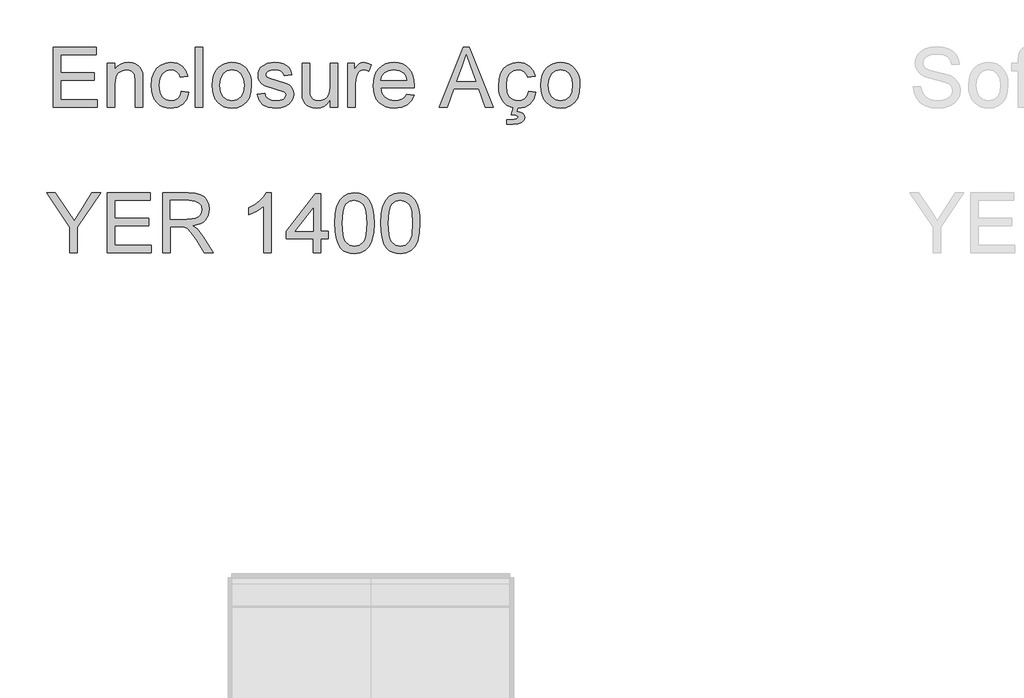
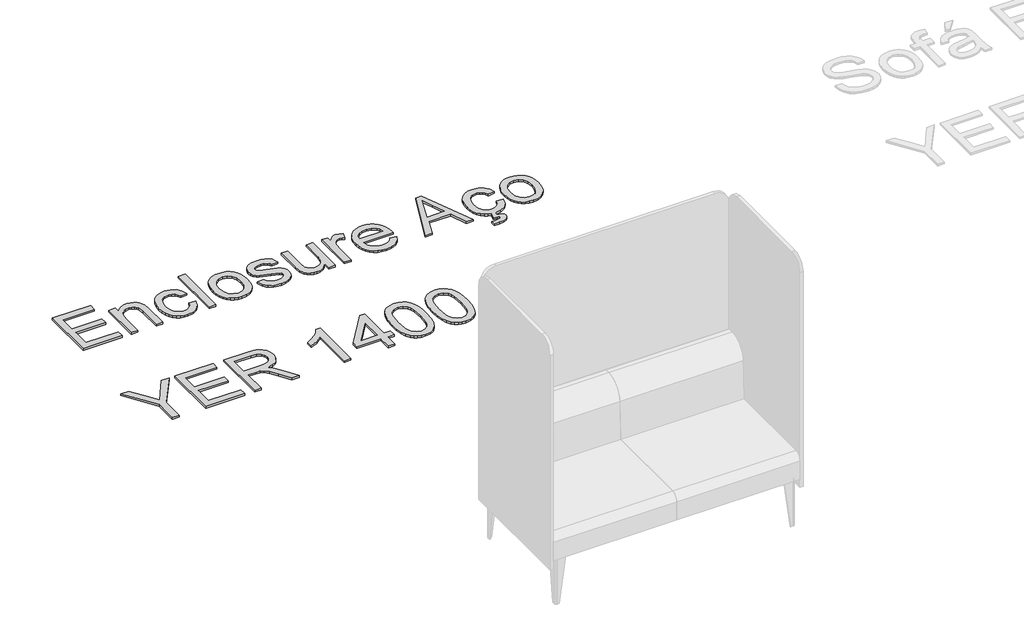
# One storey, part 3 of 26: 1 proxy.
"""IFC4 building model written with IfcOpenShell, lengths in millimetres."""

from ifc_helpers import new_model, si_unit, origin, origin_with_axes, place, context, project, spatial, polyline, outline, extrude, element, save

model = new_model("IFC4")

# Units and contexts
model_context = context("Model", 3, world=origin())
ifc_project = project(units=[si_unit("LENGTHUNIT", "METRE", prefix="MILLI")], contexts=[model_context])

# Site, building, storey
site = spatial("IfcSite", under=ifc_project)
building = spatial("IfcBuilding", under=site)
storey = spatial("IfcBuildingStorey", under=building, Name="Marelli - Linha YOUNG - Planta Baixa", Elevation=0.0)

# Proxy
placement = place(None, origin())
element("IfcBuildingElementProxy", 1, Name="300mm Arial", ObjectType="300mm Arial", at=placement, inside=storey, context=model_context, shape_type="SweptSolid", body=[
    extrude(outline(polyline([(-10696.7547836, -27414.6418665), (-10696.7547836, -27113.2729361), (-10480.1458649, -27113.2729361), (-10480.1458649, -27150.9440524), (-10659.0836673, -27150.9440524), (-10659.0836673, -27240.4129536), (-10489.563644, -27240.4129536), (-10489.563644, -27278.0840699), (-10659.0836673, -27278.0840699), (-10659.0836673, -27376.9707502), (-10475.4369753, -27376.9707502), (-10475.4369753, -27414.6418665), (-10696.7547836, -27414.6418665)])), origin_with_axes(), (0.0, 0.0, 1.0), 10.0),
    extrude(outline(polyline([(-10423.6391904, -27414.6418665), (-10423.6391904, -27193.3240582), (-10385.9680741, -27193.3240582), (-10385.9680741, -27224.2261458), (-10372.8806721, -27208.6463433), (-10357.1629139, -27197.517913), (-10338.8147994, -27190.8408548), (-10317.8363286, -27188.6151687), (-10299.2674849, -27190.4085934), (-10282.2621397, -27195.7888676), (-10268.0802888, -27204.0846066), (-10257.981928, -27214.6244258), (-10246.6879507, -27242.32594), (-10244.701388, -27278.7462575), (-10244.701388, -27414.6418665), (-10282.3725043, -27414.6418665), (-10282.3725043, -27283.823029), (-10286.7135118, -27250.4929203), (-10292.7191854, -27240.5693035), (-10302.054191, -27232.8713727), (-10314.0195529, -27227.9325569), (-10327.9162953, -27226.286285), (-10349.9800179, -27229.9834991), (-10368.7879849, -27241.0751412), (-10376.304274, -27250.1296368), (-10381.6730518, -27262.5042674), (-10385.9680741, -27297.2139337), (-10385.9680741, -27414.6418665), (-10423.6391904, -27414.6418665)])), origin_with_axes(), (0.0, 0.0, 1.0), 10.0),
    extrude(outline(polyline([(-10051.6369169, -27334.5907444), (-10013.9658006, -27339.2996339), (-10024.4688316, -27372.8044866), (-10044.2057006, -27398.1239649), (-10071.3186036, -27414.0440583), (-10103.9497366, -27419.3507561), (-10125.0776595, -27417.4998498), (-10144.0212829, -27411.9471309), (-10160.7806071, -27402.6925995), (-10175.3556319, -27389.7362555), (-10187.1531476, -27373.3218207), (-10195.5799446, -27353.693017), (-10200.6360227, -27330.8498443), (-10202.3213821, -27304.7923028), (-10199.4427055, -27271.269056), (-10190.8066757, -27242.2155754), (-10176.2753369, -27218.7539012), (-10155.7107333, -27202.0060733), (-10131.1086249, -27191.9628949), (-10104.4647714, -27188.6151687), (-10072.6337818, -27193.2136936), (-10047.1855448, -27207.0092685), (-10028.9294007, -27229.2661292), (-10018.6746901, -27259.2485118), (-10056.3458064, -27263.9574013), (-10063.1792145, -27247.5222732), (-10073.8202012, -27235.7408523), (-10087.6801554, -27228.6499268), (-10104.1704658, -27226.286285), (-10128.5150568, -27230.9399922), (-10147.8380586, -27244.901114), (-10160.447214, -27268.9238082), (-10164.6502658, -27303.7622332), (-10160.5391845, -27339.0697077), (-10148.2059406, -27363.1751754), (-10129.2324267, -27377.0535237), (-10105.2005354, -27381.6796398), (-10085.6935926, -27378.7917661), (-10069.6999229, -27370.1281451), (-10058.0656548, -27355.4680476), (-10051.6369169, -27334.5907444)])), origin_with_axes(), (0.0, 0.0, 1.0), 10.0),
    extrude(outline(polyline([(-9981.0035738, -27414.6418665), (-9981.0035738, -27113.2729361), (-9943.3324575, -27113.2729361), (-9943.3324575, -27414.6418665), (-9981.0035738, -27414.6418665)])), origin_with_axes(), (0.0, 0.0, 1.0), 10.0),
    extrude(outline(polyline([(-9896.2435621, -27303.9829624), (-9894.2064156, -27275.3203564), (-9888.0949759, -27250.621679), (-9877.9092432, -27229.88693), (-9863.6492174, -27213.1161096), (-9849.2926225, -27202.3969479), (-9833.4461056, -27194.7404039), (-9816.1096665, -27190.1464775), (-9797.2833054, -27188.6151687), (-9776.500272, -27190.4798706), (-9757.7083998, -27196.0739761), (-9740.9076889, -27205.3974855), (-9726.0981394, -27218.4503985), (-9714.0109166, -27234.7912569), (-9705.377186, -27253.9786022), (-9700.1969476, -27276.0124344), (-9698.4702015, -27300.8927536), (-9701.5236221, -27338.950146), (-9710.6838838, -27367.9208531), (-9725.6842721, -27389.6166938), (-9746.2580727, -27405.8494868), (-9770.6946342, -27415.9754388), (-9797.2833054, -27419.3507561), (-9818.3698415, -27417.492952), (-9837.3364577, -27411.9195398), (-9854.1831538, -27402.6305194), (-9868.9099299, -27389.6258909), (-9880.868394, -27373.1263834), (-9889.4101541, -27353.3527261), (-9894.5352101, -27330.3049191), (-9896.2435621, -27303.9829624)]), holes=[polyline([(-9858.5724458, -27303.909386), (-9854.2130442, -27338.0028499), (-9841.1348393, -27362.2922586), (-9821.4531525, -27376.8327945), (-9797.2833054, -27381.6796398), (-9773.223823, -27376.8052033), (-9753.5789244, -27362.181894), (-9740.5007195, -27337.5705885), (-9736.1413178, -27302.7321636), (-9740.5283106, -27269.6319811), (-9753.689289, -27245.6736661), (-9773.3617787, -27231.1331303), (-9797.2833054, -27226.286285), (-9821.4531525, -27231.1147362), (-9841.1348393, -27245.6000897), (-9854.2130442, -27269.8343162), (-9858.5724458, -27303.909386)])]), origin_with_axes(), (0.0, 0.0, 1.0), 10.0),
    extrude(outline(polyline([(-9670.2168643, -27348.717413), (-9632.545748, -27344.0085235), (-9626.6044538, -27360.1217548), (-9615.1081414, -27371.9675551), (-9597.9832345, -27379.2516186), (-9575.1561567, -27381.6796398), (-9552.6049904, -27379.4539537), (-9536.7492765, -27372.7768955), (-9527.3682856, -27363.101599), (-9524.2412886, -27351.8811982), (-9527.3866797, -27342.2794781), (-9536.8228529, -27334.9586264), (-9575.5976151, -27324.2164721), (-9632.3250188, -27305.7855842), (-9646.6816137, -27296.5241549), (-9657.0834771, -27284.2644874), (-9663.4018503, -27269.7883309), (-9665.5079748, -27253.8774346), (-9663.8157176, -27239.2817165), (-9658.7389461, -27225.8080384), (-9650.7375127, -27213.9898293), (-9640.2712699, -27204.3605181), (-9616.322152, -27193.2136936), (-9583.9117482, -27188.6151687), (-9559.3924133, -27190.4637757), (-9538.0736516, -27196.0095968), (-9520.9303507, -27204.710006), (-9508.9373976, -27216.0223773), (-9500.9911465, -27230.7836424), (-9495.9879514, -27249.8307327), (-9533.6590677, -27254.5396222), (-9538.4139425, -27242.6846249), (-9547.8225245, -27233.7542895), (-9561.9767843, -27228.1532861), (-9580.9686923, -27226.286285), (-9602.6001536, -27228.0705127), (-9617.0211278, -27233.4231957), (-9625.1329258, -27241.1487176), (-9627.8368585, -27250.0514619), (-9623.3486981, -27261.0143453), (-9609.2956059, -27269.3284784), (-9576.8484139, -27277.3483059), (-9521.5557501, -27295.0802181), (-9506.9508348, -27303.5598981), (-9495.8775868, -27315.166575), (-9488.8970259, -27329.9370371), (-9486.5701723, -27347.9080726), (-9489.3016961, -27366.4861134), (-9497.4962676, -27383.9605081), (-9510.8411869, -27398.9608965), (-9529.0237546, -27410.116918), (-9550.9863097, -27417.0422966), (-9575.6711915, -27419.3507561), (-9613.6550075, -27414.8993839), (-9641.3749159, -27401.5452675), (-9659.8793802, -27379.4355596), (-9670.2168643, -27348.717413)])), origin_with_axes(), (0.0, 0.0, 1.0), 10.0),
    extrude(outline(polyline([(-9302.9234803, -27414.6418665), (-9302.9234803, -27376.6028682), (-9316.5535082, -27395.3050692), (-9332.4276163, -27408.6637841), (-9350.5458046, -27416.6790131), (-9370.908073, -27419.3507561), (-9389.2561875, -27417.4745579), (-9406.3351092, -27411.8459634), (-9420.6641129, -27403.3846775), (-9430.7624736, -27393.0104052), (-9441.9828745, -27365.2721028), (-9444.1901665, -27330.2497368), (-9444.1901665, -27193.3240582), (-9406.5190502, -27193.3240582), (-9406.5190502, -27312.5178247), (-9404.2381818, -27350.924705), (-9398.747543, -27363.7361954), (-9389.338961, -27373.4758713), (-9376.6378351, -27379.6286976), (-9361.2695648, -27381.6796398), (-9345.0183776, -27379.5827124), (-9329.8156542, -27373.2919303), (-9317.2800752, -27363.3867076), (-9309.0303214, -27350.4464584), (-9304.4501906, -27332.7237433), (-9302.9234803, -27308.4711227), (-9302.9234803, -27193.3240582), (-9265.252364, -27193.3240582), (-9265.252364, -27414.6418665), (-9302.9234803, -27414.6418665)])), origin_with_axes(), (0.0, 0.0, 1.0), 10.0),
    extrude(outline(polyline([(-9213.4545791, -27414.6418665), (-9213.4545791, -27193.3240582), (-9180.4923523, -27193.3240582), (-9180.4923523, -27226.0655558), (-9168.3154583, -27207.0828449), (-9157.0950574, -27195.8992322), (-9145.8378684, -27190.4361846), (-9133.5506097, -27188.6151687), (-9114.788628, -27191.5214365), (-9095.7323406, -27200.2402397), (-9108.3139049, -27234.0118069), (-9121.5576567, -27228.2176655), (-9134.8014085, -27226.286285), (-9146.0494005, -27228.1440891), (-9156.101776, -27233.7175013), (-9164.2227711, -27242.5834574), (-9169.6766217, -27254.318893), (-9174.2567525, -27275.3617432), (-9175.7834628, -27298.3175797), (-9175.7834628, -27414.6418665), (-9213.4545791, -27414.6418665)])), origin_with_axes(), (0.0, 0.0, 1.0), 10.0),
    extrude(outline(polyline([(-8917.2359966, -27348.717413), (-8880.3006443, -27353.4263025), (-8893.6087754, -27381.2565755), (-8914.8447636, -27402.0603023), (-8943.5303622, -27415.0281426), (-8979.1873246, -27419.3507561), (-9002.5616268, -27417.4860542), (-9023.3883463, -27411.8919486), (-9041.6674829, -27402.5684393), (-9057.3990367, -27389.5155263), (-9070.0495788, -27373.096493), (-9079.0856804, -27353.6746229), (-9084.5073413, -27331.249916), (-9086.3145616, -27305.8223724), (-9084.4889472, -27279.5326053), (-9079.012104, -27256.3606381), (-9069.8840319, -27236.3064708), (-9057.1047311, -27219.3701035), (-9041.414564, -27205.9148195), (-9023.5538932, -27196.3039024), (-9003.5227185, -27190.5373521), (-8981.3210401, -27188.6151687), (-8959.8344324, -27190.5327536), (-8940.4033652, -27196.2855083), (-8923.0278387, -27205.8734328), (-8907.7078529, -27219.2965271), (-8895.2021643, -27236.1961062), (-8886.2695296, -27256.2134853), (-8880.9099488, -27279.3486643), (-8879.1234219, -27305.6016432), (-8879.3441511, -27315.7551862), (-9048.6434453, -27315.7551862), (-9042.1227369, -27343.9533412), (-9026.9751957, -27364.6834916), (-9005.1138082, -27377.4306027), (-8978.4515606, -27381.6796398), (-8958.4019918, -27379.7114711), (-8941.5162083, -27373.8069651), (-8927.7942098, -27363.5982397), (-8917.2359966, -27348.717413)]), holes=[polyline([(-9048.6434453, -27278.0840699), (-8916.7945382, -27278.0840699), (-8921.8897038, -27258.181654), (-8931.8777, -27243.9446208), (-8953.8402551, -27230.7008689), (-8981.4681929, -27226.286285), (-9006.8612476, -27229.8087551), (-9027.8581125, -27240.3761654), (-9042.4538307, -27256.8480818), (-9048.6434453, -27278.0840699)])]), origin_with_axes(), (0.0, 0.0, 1.0), 10.0),
    extrude(outline(polyline([(-8754.1171199, -27414.6418665), (-8633.8197075, -27113.2729361), (-8601.7403975, -27113.2729361), (-8481.4429851, -27414.6418665), (-8521.247817, -27414.6418665), (-8555.7551481, -27320.4640758), (-8679.8785333, -27320.4640758), (-8714.312288, -27414.6418665), (-8754.1171199, -27414.6418665)]), holes=[polyline([(-8666.0461703, -27282.7929595), (-8569.5139347, -27282.7929595), (-8596.663626, -27208.7015256), (-8617.7800525, -27150.9440524), (-8636.5420343, -27202.2268025), (-8666.0461703, -27282.7929595)])]), origin_with_axes(), (0.0, 0.0, 1.0), 10.0),
    extrude(outline(polyline([(-8304.6388982, -27334.5907444), (-8266.9677819, -27339.2996339), (-8277.4708129, -27372.8044866), (-8297.2076819, -27398.1239649), (-8324.3205849, -27414.0440583), (-8357.965626, -27419.2619329), (-8363.2057118, -27435.0961055), (-8346.2371548, -27438.5541962), (-8333.738364, -27445.1024957), (-8326.0404333, -27453.6557521), (-8323.4744564, -27463.1287135), (-8327.1900645, -27476.6299827), (-8338.336889, -27488.4389948), (-8356.9885061, -27496.6611574), (-8383.2184924, -27499.4018782), (-8412.9433576, -27499.4018782), (-8412.9433576, -27475.8574305), (-8392.1212367, -27475.8574305), (-8362.8378298, -27471.516423), (-8356.4366831, -27463.4230191), (-8359.0118571, -27458.0887302), (-8368.5400008, -27454.1156046), (-8390.5761323, -27452.3129828), (-8380.5789009, -27416.7672714), (-8397.0232642, -27411.9471309), (-8413.7825884, -27402.6925995), (-8428.3576132, -27389.7362555), (-8440.1551289, -27373.3218207), (-8448.5819259, -27353.693017), (-8453.638004, -27330.8498443), (-8455.3233634, -27304.7923028), (-8452.4446868, -27271.269056), (-8443.808657, -27242.2155754), (-8429.2773182, -27218.7539012), (-8408.7127146, -27202.0060733), (-8384.1106062, -27191.9628949), (-8357.4667527, -27188.6151687), (-8325.6357631, -27193.2136936), (-8300.1875261, -27207.0092685), (-8281.9313821, -27229.2661292), (-8271.6766714, -27259.2485118), (-8309.3477877, -27263.9574013), (-8316.1811958, -27247.5222732), (-8326.8221825, -27235.7408523), (-8340.6821367, -27228.6499268), (-8357.1724471, -27226.286285), (-8381.5170381, -27230.9399922), (-8400.8400399, -27244.901114), (-8413.4491953, -27268.9238082), (-8417.6522471, -27303.7622332), (-8413.5411658, -27339.0697077), (-8401.2079219, -27363.1751754), (-8382.234408, -27377.0535237), (-8358.2025167, -27381.6796398), (-8338.6955739, -27378.7917661), (-8322.7019042, -27370.1281451), (-8311.0676361, -27355.4680476), (-8304.6388982, -27334.5907444)])), origin_with_axes(), (0.0, 0.0, 1.0), 10.0),
    extrude(outline(polyline([(-8243.4233342, -27303.9829624), (-8241.3861877, -27275.3203564), (-8235.274748, -27250.621679), (-8225.0890153, -27229.88693), (-8210.8289894, -27213.1161096), (-8196.4723946, -27202.3969479), (-8180.6258776, -27194.7404039), (-8163.2894386, -27190.1464775), (-8144.4630775, -27188.6151687), (-8123.680044, -27190.4798706), (-8104.8881719, -27196.0739761), (-8088.087461, -27205.3974855), (-8073.2779114, -27218.4503985), (-8061.1906886, -27234.7912569), (-8052.5569581, -27253.9786022), (-8047.3767197, -27276.0124344), (-8045.6499736, -27300.8927536), (-8048.7033942, -27338.950146), (-8057.8636558, -27367.9208531), (-8072.8640442, -27389.6166938), (-8093.4378448, -27405.8494868), (-8117.8744063, -27415.9754388), (-8144.4630775, -27419.3507561), (-8165.5496136, -27417.492952), (-8184.5162297, -27411.9195398), (-8201.3629258, -27402.6305194), (-8216.089702, -27389.6258909), (-8228.0481661, -27373.1263834), (-8236.5899261, -27353.3527261), (-8241.7149822, -27330.3049191), (-8243.4233342, -27303.9829624)]), holes=[polyline([(-8205.7522179, -27303.909386), (-8201.3928163, -27338.0028499), (-8188.3146113, -27362.2922586), (-8168.6329246, -27376.8327945), (-8144.4630775, -27381.6796398), (-8120.403595, -27376.8052033), (-8100.7586965, -27362.181894), (-8087.6804916, -27337.5705885), (-8083.3210899, -27302.7321636), (-8087.7080827, -27269.6319811), (-8100.8690611, -27245.6736661), (-8120.5415508, -27231.1331303), (-8144.4630775, -27226.286285), (-8168.6329246, -27231.1147362), (-8188.3146113, -27245.6000897), (-8201.3928163, -27269.8343162), (-8205.7522179, -27303.909386)])]), origin_with_axes(), (0.0, 0.0, 1.0), 10.0),
    extrude(outline(polyline([(-10611.994772, -28146.4907736), (-10611.994772, -28018.8357213), (-10729.7170104, -27845.1218432), (-10685.2768654, -27845.1218432), (-10622.4426206, -27937.9016823), (-10590.2897342, -27985.2113069), (-10558.0632715, -27934.517168), (-10501.0415622, -27845.1218432), (-10456.6014172, -27845.1218432), (-10574.3236556, -28018.8357213), (-10574.3236556, -28146.4907736), (-10611.994772, -28146.4907736)])), origin_with_axes(), (0.0, 0.0, 1.0), 10.0),
    extrude(outline(polyline([(-10423.6391904, -28146.4907736), (-10423.6391904, -27845.1218432), (-10207.0302717, -27845.1218432), (-10207.0302717, -27882.7929595), (-10385.9680741, -27882.7929595), (-10385.9680741, -27972.2618607), (-10216.4480507, -27972.2618607), (-10216.4480507, -28009.932977), (-10385.9680741, -28009.932977), (-10385.9680741, -28108.8196573), (-10202.3213821, -28108.8196573), (-10202.3213821, -28146.4907736), (-10423.6391904, -28146.4907736)])), origin_with_axes(), (0.0, 0.0, 1.0), 10.0),
    extrude(outline(polyline([(-10145.8147077, -28146.4907736), (-10145.8147077, -27845.1218432), (-10015.9523634, -27845.1218432), (-9981.0495591, -27847.1543912), (-9955.6565044, -27853.2520352), (-9937.0968577, -27864.5092243), (-9922.6942776, -27882.0204073), (-9913.4512425, -27903.734642), (-9910.3702308, -27927.6009865), (-9915.4745934, -27957.2890635), (-9930.7876815, -27981.900369), (-9942.3874606, -27991.9297519), (-9956.7693474, -27999.9449808), (-9993.8794437, -28009.932977), (-9972.4687115, -28026.0462084), (-9941.9345059, -28064.8209707), (-9891.6818254, -28146.4907736), (-9935.4597828, -28146.4907736), (-9974.6760035, -28084.0244108), (-10003.0029171, -28042.6744746), (-10022.9053331, -28023.1399406), (-10040.8211862, -28015.9662417), (-10062.6733768, -28014.6418665), (-10108.1435914, -28014.6418665), (-10108.1435914, -28146.4907736), (-10145.8147077, -28146.4907736)]), holes=[polyline([(-10108.1435914, -27976.9707502), (-10023.8250381, -27976.9707502), (-9999.6092057, -27975.637178), (-9980.8196328, -27971.6364613), (-9966.6745701, -27964.7018857), (-9956.3922683, -27954.5667367), (-9950.1290774, -27942.3070692), (-9948.0413471, -27928.9989381), (-9952.0236697, -27910.6232324), (-9963.9706375, -27895.8159821), (-9984.5260439, -27886.0487151), (-10014.3336826, -27882.7929595), (-10108.1435914, -27882.7929595), (-10108.1435914, -27976.9707502)])]), origin_with_axes(), (0.0, 0.0, 1.0), 10.0),
    extrude(outline(polyline([(-9599.5835212, -28146.4907736), (-9637.2546375, -28146.4907736), (-9637.2546375, -27911.6349079), (-9672.9391911, -27937.0555537), (-9712.5968701, -27956.0750529), (-9712.5968701, -27920.4640758), (-9683.0099607, -27904.3692385), (-9657.3777827, -27885.2209806), (-9637.1718641, -27864.8587122), (-9623.8637329, -27845.1218432), (-9599.5835212, -27845.1218432), (-9599.5835212, -28146.4907736)])), origin_with_axes(), (0.0, 0.0, 1.0), 10.0),
    extrude(outline(polyline([(-9387.683492, -28146.4907736), (-9387.683492, -28075.8574305), (-9524.2412886, -28075.8574305), (-9524.2412886, -28038.1863142), (-9378.2657129, -27849.8307327), (-9350.0123757, -27849.8307327), (-9350.0123757, -28038.1863142), (-9312.3412594, -28038.1863142), (-9312.3412594, -28075.8574305), (-9350.0123757, -28075.8574305), (-9350.0123757, -28146.4907736), (-9387.683492, -28146.4907736)]), holes=[polyline([(-9387.683492, -28038.1863142), (-9387.683492, -27921.7884509), (-9477.8881572, -28038.1863142), (-9387.683492, -28038.1863142)])]), origin_with_axes(), (0.0, 0.0, 1.0), 10.0),
    extrude(outline(polyline([(-9279.3790326, -27998.2343295), (-9276.6107206, -27949.9958029), (-9268.3057846, -27911.5245433), (-9254.546998, -27882.2319394), (-9235.4171342, -27861.5293801), (-9210.7782376, -27849.2237274), (-9180.4923523, -27845.1218432), (-9157.2789984, -27847.5498643), (-9136.4936657, -27854.8339278), (-9119.1112414, -27866.6889251), (-9106.1066129, -27882.8297477), (-9096.2841636, -27903.1184397), (-9088.4482771, -27927.4170455), (-9083.3163233, -27958.2731478), (-9081.605672, -27998.2343295), (-9084.3463929, -28046.1969447), (-9092.5685555, -28084.5762338), (-9106.2445686, -28113.8964288), (-9125.3468412, -28134.6817616), (-9150.0409202, -28147.0701877), (-9180.4923523, -28151.1996631), (-9201.2408969, -28149.4062384), (-9219.6349966, -28144.0259642), (-9235.6746516, -28135.0588406), (-9249.3598618, -28122.5048675), (-9262.493249, -28099.8111469), (-9271.8742399, -28071.5348171), (-9277.5028345, -28037.675878), (-9279.3790326, -27998.2343295)]), holes=[polyline([(-9241.7079163, -27998.1607531), (-9237.2933324, -28057.4173455), (-9231.7751025, -28077.6853442), (-9224.0495806, -28091.7131445), (-9204.3311056, -28108.0746963), (-9180.4923523, -28113.5285468), (-9156.653599, -28108.0563022), (-9136.9351241, -28091.6395681), (-9129.2096022, -28077.5887752), (-9123.6913723, -28057.325375), (-9119.2767883, -27998.1607531), (-9123.5442195, -27940.237733), (-9128.8785084, -27920.0364129), (-9136.3465129, -27905.6752196), (-9156.0281996, -27888.5135245), (-9180.9338107, -27882.7929595), (-9204.5150466, -27887.8329428), (-9223.4609694, -27902.9528928), (-9231.4440087, -27918.5878776), (-9237.1461796, -27939.6675159), (-9241.7079163, -27998.1607531)])]), origin_with_axes(), (0.0, 0.0, 1.0), 10.0),
    extrude(outline(polyline([(-9048.6434453, -27998.2343295), (-9045.8751332, -27949.9958029), (-9037.5701972, -27911.5245433), (-9023.8114106, -27882.2319394), (-9004.6815468, -27861.5293801), (-8980.0426502, -27849.2237274), (-8949.7567649, -27845.1218432), (-8926.5434111, -27847.5498643), (-8905.7580783, -27854.8339278), (-8888.3756541, -27866.6889251), (-8875.3710255, -27882.8297477), (-8865.5485763, -27903.1184397), (-8857.7126898, -27927.4170455), (-8852.5807359, -27958.2731478), (-8850.8700846, -27998.2343295), (-8853.6108055, -28046.1969447), (-8861.8329681, -28084.5762338), (-8875.5089813, -28113.8964288), (-8894.6112539, -28134.6817616), (-8919.3053328, -28147.0701877), (-8949.7567649, -28151.1996631), (-8970.5053095, -28149.4062384), (-8988.8994092, -28144.0259642), (-9004.9390642, -28135.0588406), (-9018.6242744, -28122.5048675), (-9031.7576617, -28099.8111469), (-9041.1386525, -28071.5348171), (-9046.7672471, -28037.675878), (-9048.6434453, -27998.2343295)]), holes=[polyline([(-9010.9723289, -27998.1607531), (-9006.557745, -28057.4173455), (-9001.0395151, -28077.6853442), (-8993.3139932, -28091.7131445), (-8973.5955182, -28108.0746963), (-8949.7567649, -28113.5285468), (-8925.9180117, -28108.0563022), (-8906.1995367, -28091.6395681), (-8898.4740148, -28077.5887752), (-8892.9557849, -28057.325375), (-8888.541201, -27998.1607531), (-8892.8086321, -27940.237733), (-8898.142921, -27920.0364129), (-8905.6109255, -27905.6752196), (-8925.2926123, -27888.5135245), (-8950.1982233, -27882.7929595), (-8973.7794592, -27887.8329428), (-8992.725382, -27902.9528928), (-9000.7084213, -27918.5878776), (-9006.4105922, -27939.6675159), (-9010.9723289, -27998.1607531)])]), origin_with_axes(), (0.0, 0.0, 1.0), 10.0),
])

save(model, "model.ifc")
